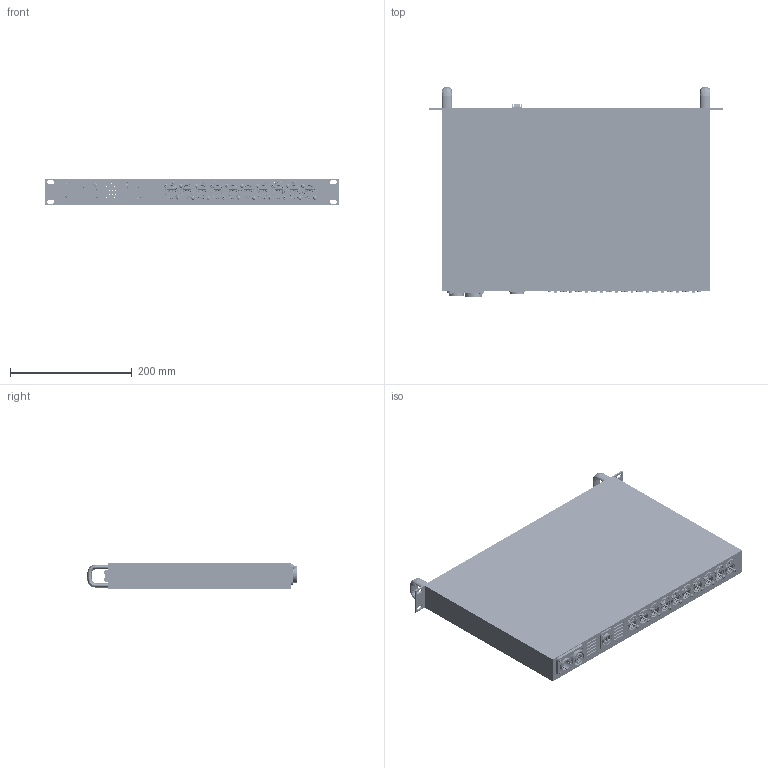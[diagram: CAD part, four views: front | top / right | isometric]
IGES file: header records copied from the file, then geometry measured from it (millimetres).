
Start section: SolidWorks IGES file using analytic representation for surfaces
Global section: file name: C:\Users\eschuettke\Documents\Colorlight\H10FN\T10 OUTLINE 021821.IGS; native system: SolidWorks 2019; preprocessor: SolidWorks 2019; author: eschuettke; date: 210218.075954; units: millimetre
Bounding box: 482.6 x 344.95 x 44 mm (x, y, z)
Surface area: 790420 mm2 (no closed solid volume)
Topology: 0 solids, 0 shells, 11806 faces, 103409 edges, 103099 vertices
Faces by surface type: bspline 7251, revolution 4555
